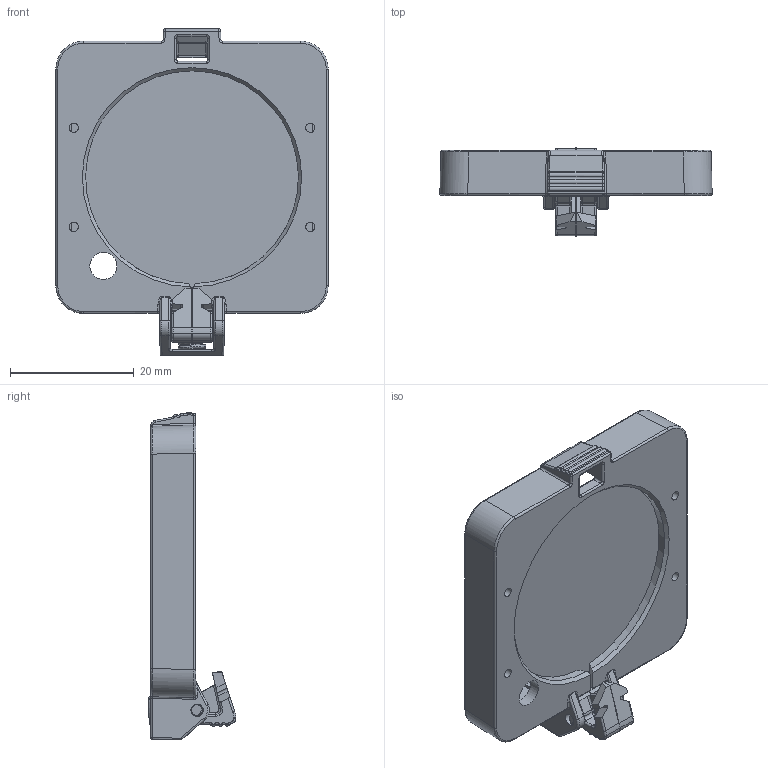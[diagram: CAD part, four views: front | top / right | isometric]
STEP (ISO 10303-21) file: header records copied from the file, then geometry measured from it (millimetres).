
FILE_DESCRIPTION(/* description */ ('Unknown'),/* implementation_level */ '2;1');
FILE_NAME(/* name */ 'Polarisationfilter_11704588',/* time_stamp */ '2023-03-03T07:24:23+01:00',/* author */ ('Unknown'),/* organization */ ('Baumer'),/* preprocessor_version */ 'ST-DEVELOPER v16.7',/* originating_system */ 'Solid Edge',/* authorisation */ 'Unknown');
FILE_SCHEMA (('AUTOMOTIVE_DESIGN {1 0 10303 214 3 1 1}'));
Length unit declared in the file: millimetre
Products named in the file (1): Polarisationfilter_11704588
Bounding box: 43.97 x 14.21 x 52.94 mm (x, y, z)
Volume: 4939 mm3; surface area: 7228 mm2
Topology: 1 solids, 1 shells, 555 faces, 1422 edges, 872 vertices
Faces by surface type: plane 232, cylinder 203, bspline 58, torus 48, sphere 12, cone 2
Full cylindrical faces by diameter (mm): 1 x2, 1.493 x4, 1.5 x1, 1.9 x2, 1.99 x2, 3 x1, 4.378 x1, 4.9 x1, 5.542 x1
Entity records: 27385 total; most frequent: CARTESIAN_POINT 10208, ORIENTED_EDGE 2782, DIRECTION 2758, EDGE_CURVE 1391, AXIS2_PLACEMENT_3D 993, VERTEX_POINT 858, LINE 772, VECTOR 772
